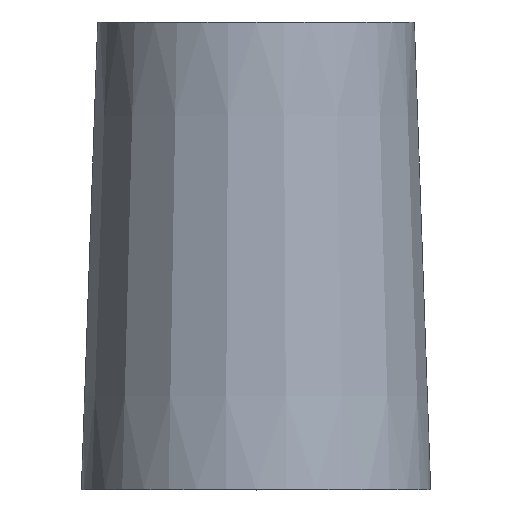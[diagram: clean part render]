
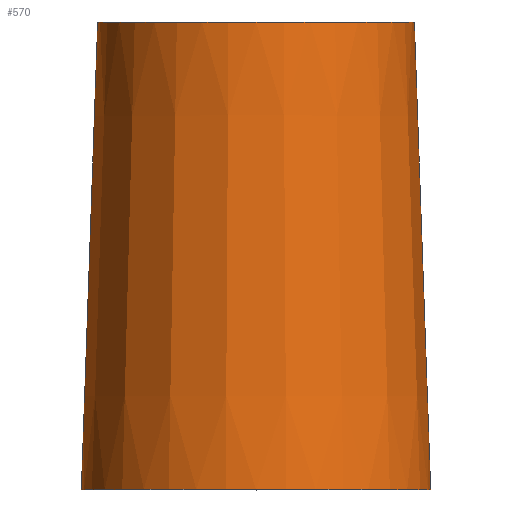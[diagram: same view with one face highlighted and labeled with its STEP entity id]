
A CAD part, top view. The second image highlights one B-rep face of the part: STEP entity #570.
In plain terms, the highlighted conical face has half-angle 2 degrees and reference radius 5.521 mm.
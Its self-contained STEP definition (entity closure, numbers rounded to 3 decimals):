
#17=CONICAL_SURFACE('',#630,5.521,0.035);
#40=CIRCLE('',#629,5.791);
#41=CIRCLE('',#631,5.25);
#70=FACE_OUTER_BOUND('',#101,.T.);
#101=EDGE_LOOP('',(#509,#510,#511,#512));
#159=LINE('',#964,#216);
#216=VECTOR('',#777,5.521);
#269=VERTEX_POINT('',#959);
#270=VERTEX_POINT('',#962);
#349=EDGE_CURVE('',#269,#269,#40,.T.);
#350=EDGE_CURVE('',#270,#270,#41,.T.);
#351=EDGE_CURVE('',#270,#269,#159,.T.);
#509=ORIENTED_EDGE('',*,*,#350,.F.);
#510=ORIENTED_EDGE('',*,*,#351,.T.);
#511=ORIENTED_EDGE('',*,*,#349,.T.);
#512=ORIENTED_EDGE('',*,*,#351,.F.);
#570=ADVANCED_FACE('',(#70),#17,.T.);
#629=AXIS2_PLACEMENT_3D('',#960,#771,#772);
#630=AXIS2_PLACEMENT_3D('',#961,#773,#774);
#631=AXIS2_PLACEMENT_3D('',#963,#775,#776);
#771=DIRECTION('center_axis',(0.,1.,0.));
#772=DIRECTION('ref_axis',(1.,0.,0.));
#773=DIRECTION('center_axis',(0.,-1.,0.));
#774=DIRECTION('ref_axis',(1.,0.,0.));
#775=DIRECTION('center_axis',(0.,1.,0.));
#776=DIRECTION('ref_axis',(1.,0.,0.));
#777=DIRECTION('',(-0.035,-0.999,0.));
#959=CARTESIAN_POINT('',(-5.791,0.,0.));
#960=CARTESIAN_POINT('Origin',(0.,0.,0.));
#961=CARTESIAN_POINT('Origin',(0.,7.75,0.));
#962=CARTESIAN_POINT('',(-5.25,15.5,0.));
#963=CARTESIAN_POINT('Origin',(0.,15.5,0.));
#964=CARTESIAN_POINT('',(-5.521,7.75,0.));
